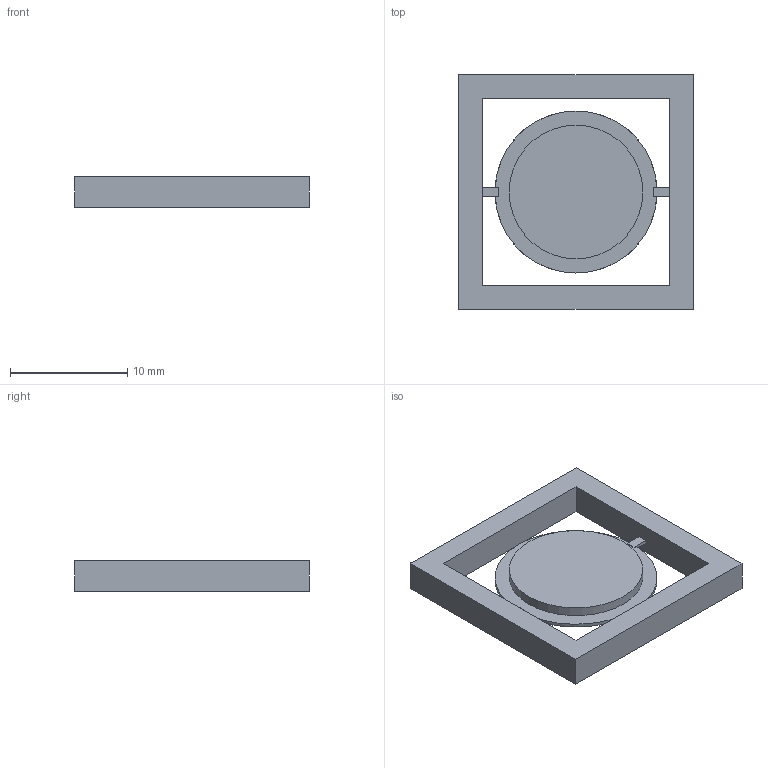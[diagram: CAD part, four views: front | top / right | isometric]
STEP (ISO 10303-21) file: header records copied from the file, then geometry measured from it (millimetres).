
FILE_DESCRIPTION(('FreeCAD Model'),'2;1');
FILE_NAME('Open CASCADE Shape Model','2026-09-23T10:52:40',('FreeCAD'),( 'FreeCAD'),'Open CASCADE STEP processor 7.8','FreeCAD','Unknown');
FILE_SCHEMA(('AUTOMOTIVE_DESIGN { 1 0 10303 214 1 1 1 1 }'));
Length unit declared in the file: millimetre
Products named in the file (1): Open CASCADE STEP translator 7.8 4
Bounding box: 20 x 20 x 2.6 mm (x, y, z)
Volume: 494.9 mm3; surface area: 1044 mm2
Topology: 1 solids, 1 shells, 31 faces, 75 edges, 50 vertices
Faces by surface type: plane 26, cylinder 5
Full cylindrical faces by diameter (mm): 2.4 x1, 6.4 x1, 10.6 x1, 11.4 x1, 13.8 x1
Entity records: 919 total; most frequent: CARTESIAN_POINT 159, DIRECTION 151, ORIENTED_EDGE 150, EDGE_CURVE 75, LINE 59, VECTOR 59, VERTEX_POINT 50, AXIS2_PLACEMENT_3D 46
